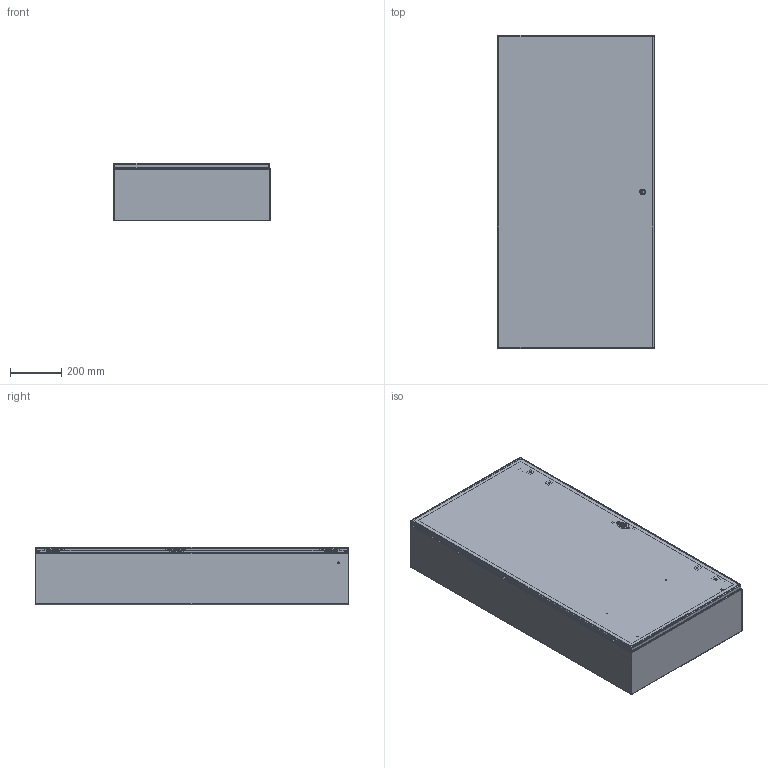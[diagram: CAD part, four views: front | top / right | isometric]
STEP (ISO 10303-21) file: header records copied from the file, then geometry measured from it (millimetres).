
FILE_DESCRIPTION (( 'STEP AP203' ), '1' );
FILE_NAME ('29429.step', '2015-03-30T06:34:06', ( '' ), ( '' ), 'SwSTEP 2.0', 'SolidWorks 2010', '' );
FILE_SCHEMA (( 'CONFIG_CONTROL_DESIGN' ));
Products named in the file (34): 29429; 89117184; 89117183_default; 89117026_default; 89117025_default; 23271001_After Weld; 87937951_assy; 87937991_weldment; 87936150; 99401225; 51123001_Post weld; 87931362_87931362; 87408408_Unlocked; 64102001_Latch Open; 87540678; 64210001; 64202001; 64208001; 64205001; 87541995; 87541994_Installed Height; 64206005; 64207001; 64103001; 99411834; 87555298; 87938013; 87543027; 89076399; 89076193; 89056623; 87929507; 87929767; 87929769_Installed on Pin
Assembly tree (53 placements, depth 5):
  29429
    87543027  x3
    87929507  x3
      87929769_Installed on Pin
      87929767
    89076399  x3
      89056623
      89076193
    87937951_assy
      87408408_Unlocked
        64207001  x2
        64103001  x4
        99411834  x2
        64102001_Latch Open
          64202001
          87540678
          87541994_Installed Height
          64210001
          64208001
          64205001  x2
          87541995
        64206005  x2
      87555298
      87938013
      87937991_weldment
        51123001_Post weld
        99401225
        87931362_87931362  x2
        87936150
    89117184
      89117026_default
      99401225
      23271001_After Weld  x6
      89117025_default
      89117183_default
Bounding box: 609.6 x 1219.2 x 223.9 mm (x, y, z)
Volume: 4698011 mm3; surface area: 5011619.5 mm2
Topology: 51 solids, 51 shells, 3321 faces, 8633 edges, 5437 vertices
Faces by surface type: plane 1467, cylinder 915, bspline 642, torus 167, cone 93, sphere 37
Entity records: 74018 total; most frequent: CARTESIAN_POINT 26484, ORIENTED_EDGE 9486, DIRECTION 8329, EDGE_CURVE 4743, VERTEX_POINT 2998, AXIS2_PLACEMENT_3D 2827, LINE 2675, VECTOR 2675
